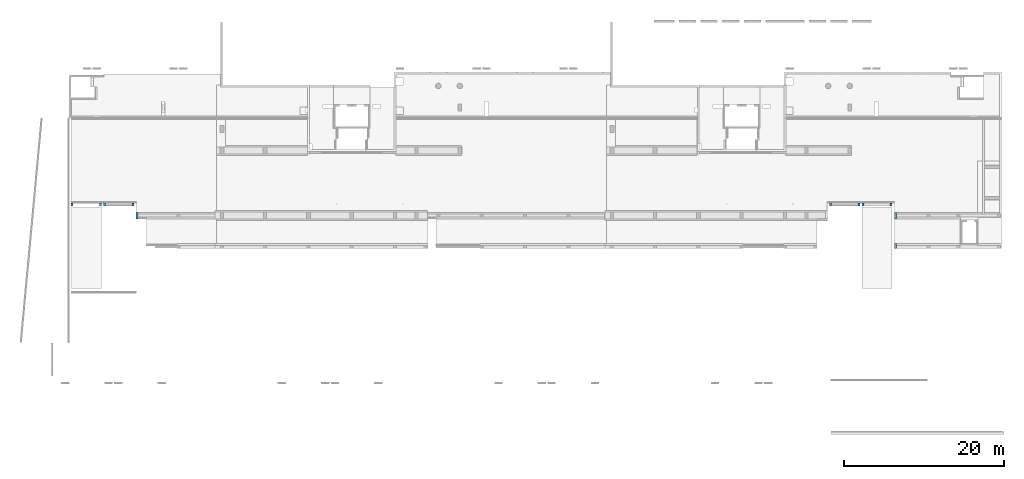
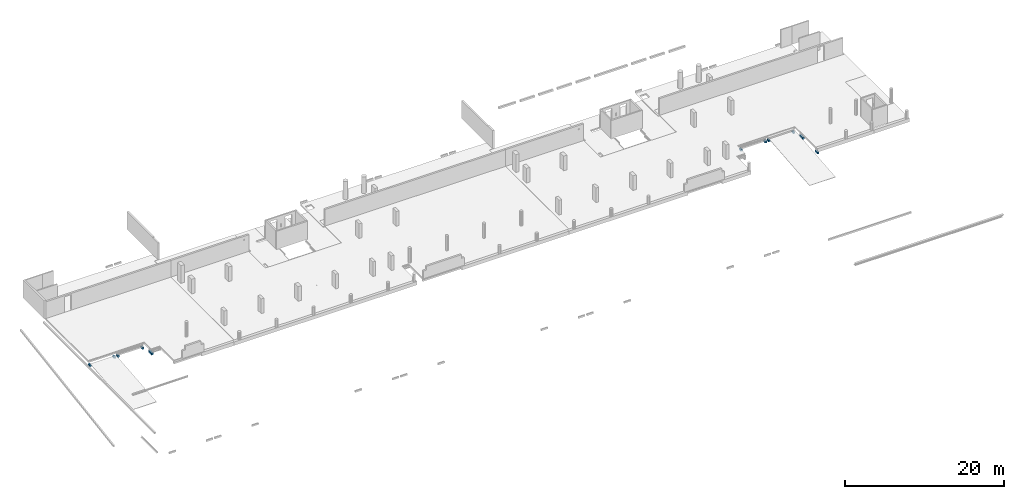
# One storey, part 10 of 10: 11 walls.
"""IFC2X3 building model written with IfcOpenShell, lengths in millimetres."""

import ifcopenshell
import ifcopenshell.guid

model = None  # the IFC model being written
_history = None  # IfcOwnerHistory: only IFC2X3 demands one
_inside = {}  # id of a spatial element -> (the spatial element, [elements in it])
_under = {}  # id of a project, library or spatial element -> (it, [spatial elements below it])
_declared = {}  # id of a project -> (the project, [libraries it declares])
_typed = {}  # id of a type object -> (the type object, [elements of that type])
_made_of = {}  # id of a material, layer set ... -> (it, [elements and type objects made of it])


def new_model(schema):
    """Start an empty IFC model of exactly this schema.

    Asked for "IFC4X3", IfcOpenShell would pick the latest addendum, in which some entities
    have other attributes; the version numbers below select the first issue.
    IFC2X3 requires an IfcOwnerHistory on every rooted entity: one is made here for all.
    """
    global model, _history
    if schema == "IFC4X3":
        model = ifcopenshell.file(schema_version=(4, 3, 0, 0))
    else:
        model = ifcopenshell.file(schema=schema)
    _inside.clear()
    _under.clear()
    _declared.clear()
    _typed.clear()
    _made_of.clear()
    _history = None
    if model.schema == "IFC2X3":
        org = make("IfcOrganization", Name="unknown")
        user = make(
            "IfcPersonAndOrganization",
            ThePerson=make("IfcPerson", FamilyName="unknown"),
            TheOrganization=org,
        )
        app = make(
            "IfcApplication",
            ApplicationDeveloper=org,
            Version="unknown",
            ApplicationFullName="unknown",
            ApplicationIdentifier="unknown",
        )
        _history = make(
            "IfcOwnerHistory",
            OwningUser=user,
            OwningApplication=app,
            ChangeAction="ADDED",
            CreationDate=0,
        )
    return model


def make(cls, **values):
    """One entity of the class cls with the attributes given. An attribute that is None is left unset."""
    return model.create_entity(
        cls, **{name: value for name, value in values.items() if value is not None}
    )


def entity(cls, *values):
    """Any entity or typed value of the class cls, its attributes in the order of the schema. None: left unset."""
    e = model.create_entity(cls)
    for i, value in enumerate(values):
        if value is not None:
            e[i] = value
    return e


def rooted(cls, **values):
    """An entity with a GlobalId (a new one), such as an element, a storey or a relation."""
    return make(cls, GlobalId=ifcopenshell.guid.new(), OwnerHistory=_history, **values)


def si_unit(unit_type, name, prefix=None):
    """IfcSIUnit, for example si_unit("LENGTHUNIT", "METRE", prefix="MILLI")."""
    return make("IfcSIUnit", UnitType=unit_type, Prefix=prefix, Name=name)


def converted_unit(unit_type, name, factor, base, dimensions=None, offset=None):
    """IfcConversionBasedUnit, such as the inch: factor (a typed value) times the base unit."""
    return make(
        "IfcConversionBasedUnit"
        if offset is None
        else "IfcConversionBasedUnitWithOffset",
        ConversionOffset=offset,
        Dimensions=None
        if dimensions is None
        else entity("IfcDimensionalExponents", *dimensions),
        UnitType=unit_type,
        Name=name,
        ConversionFactor=make(
            "IfcMeasureWithUnit", ValueComponent=factor, UnitComponent=base
        ),
    )


def derived_unit(unit_type, elements):
    """IfcDerivedUnit: a product of units, each with its exponent."""
    return make(
        "IfcDerivedUnit",
        Elements=[
            make("IfcDerivedUnitElement", Unit=unit, Exponent=power)
            for unit, power in elements
        ],
        UnitType=unit_type,
    )


def assignment(units):
    """IfcUnitAssignment: the units of a project."""
    return None if units is None else make("IfcUnitAssignment", Units=units)


def point(xyz):
    """IfcCartesianPoint."""
    return None if xyz is None else make("IfcCartesianPoint", Coordinates=xyz)


def direction(xyz):
    """IfcDirection."""
    return None if xyz is None else make("IfcDirection", DirectionRatios=xyz)


def frame(location, z_axis=None, x_axis=None):
    """IfcAxis2Placement3D, a coordinate frame: its origin and axes. An axis left out is left unset."""
    return make(
        "IfcAxis2Placement3D",
        Location=point(location),
        Axis=direction(z_axis),
        RefDirection=direction(x_axis),
    )


def origin():
    """The frame at (0, 0, 0) with its axes left unset."""
    return frame((0.0, 0.0, 0.0))


def place(relative_to, where):
    """IfcLocalPlacement: puts the frame where relative to a parent placement (None: the world)."""
    return make(
        "IfcLocalPlacement", PlacementRelTo=relative_to, RelativePlacement=where
    )


def context(
    kind, dimensions, precision=None, world=None, true_north=None, identifier=None
):
    """IfcGeometricRepresentationContext, for example the 3D "Model" context."""
    return make(
        "IfcGeometricRepresentationContext",
        ContextIdentifier=identifier,
        ContextType=kind,
        CoordinateSpaceDimension=dimensions,
        Precision=precision,
        WorldCoordinateSystem=world,
        TrueNorth=true_north,
    )


def subcontext(parent, identifier, kind, view, scale=None):
    """IfcGeometricRepresentationSubContext, for example "Body" below "Model"."""
    return make(
        "IfcGeometricRepresentationSubContext",
        ContextIdentifier=identifier,
        ContextType=kind,
        ParentContext=parent,
        TargetScale=scale,
        TargetView=view,
    )


def project(units=None, contexts=None):
    """IfcProject with its units and contexts."""
    return rooted(
        "IfcProject",
        Name="project",
        RepresentationContexts=contexts,
        UnitsInContext=assignment(units),
    )


def spatial(cls, under=None, at=None, **own):
    """A site, building, storey or space (cls), placed at a placement, below another one or the project."""
    s = rooted(cls, ObjectPlacement=at, **own)
    if under is not None:
        _under.setdefault(under.id(), (under, []))[1].append(s)
    return s


def faces_of(points, faces, orient=None, outer=None):
    """IfcFace entities. A face is a list of loops; a loop is a list of indices into points, from 0.

    orient and outer hold one flag for each loop. By default every Orientation is true, the
    first loop of a face is its IfcFaceOuterBound and the others are IfcFaceBound.
    """
    made = []
    for i, loops in enumerate(faces):
        bounds = []
        for j, loop in enumerate(loops):
            is_outer = j == 0 if outer is None else outer[i][j]
            bounds.append(
                make(
                    "IfcFaceOuterBound" if is_outer else "IfcFaceBound",
                    Bound=make("IfcPolyLoop", Polygon=[points[k] for k in loop]),
                    Orientation=True if orient is None else orient[i][j],
                )
            )
        made.append(make("IfcFace", Bounds=bounds))
    return made


def faceted_brep(points, faces, orient=None, outer=None, voids=None):
    """IfcFacetedBrep: a solid bounded by flat faces; with voids (closed shells), ...WithVoids."""
    shared = [point(p) for p in points]
    hull = make("IfcClosedShell", CfsFaces=faces_of(shared, faces, orient, outer))
    if voids is None:
        return make("IfcFacetedBrep", Outer=hull)
    return make(
        "IfcFacetedBrepWithVoids",
        Outer=hull,
        Voids=[
            make(cls, CfsFaces=faces_of(shared, fs, o, b)) for cls, fs, o, b in voids
        ],
    )


def shape(context_of_items, identifier, shape_type, items):
    """IfcShapeRepresentation: the items that make up one representation, for example the "Body"."""
    return make(
        "IfcShapeRepresentation",
        ContextOfItems=context_of_items,
        RepresentationIdentifier=identifier,
        RepresentationType=shape_type,
        Items=items,
    )


def material(Name=None, Category=None):
    """IfcMaterial."""
    return make("IfcMaterial", Name=Name, Category=Category)


def made_of(thing, what):
    """Note that an element or type object is made of a material, layer set ...; save() writes the relation."""
    if what is not None:
        _made_of.setdefault(what.id(), (what, []))[1].append(thing)
    return thing


def type_object(cls, material=None, **own):
    """A type object (cls), such as IfcWallType, which elements share."""
    return made_of(rooted(cls, **own), material)


def element(
    cls,
    number,
    at=None,
    inside=None,
    cuts=None,
    type_object=None,
    material=None,
    context=None,
    identifier="Body",
    shape_type=None,
    held_by="IfcProductDefinitionShape",
    body=None,
    shapes=None,
    **own,
):
    """One element of the class cls, such as IfcWall. Its Tag is "e" and its number.

    at: its placement. inside: the storey or other place that contains it. cuts: it is an
    opening in that element (IfcRelVoidsElement). A single representation is given by context,
    identifier, shape_type and body (its items); several are given by shapes. held_by: the class
    of the entity that holds the representations. save() writes the other relations.
    """
    e = rooted(cls, Tag="e%d" % number, ObjectPlacement=at, **own)
    if body is not None:
        shapes = [shape(context, identifier, shape_type, body)]
    if shapes is not None:
        e.Representation = make(held_by, Representations=shapes)
    if inside is not None:
        _inside.setdefault(inside.id(), (inside, []))[1].append(e)
    if cuts is not None:
        rooted(
            "IfcRelVoidsElement", RelatingBuildingElement=cuts, RelatedOpeningElement=e
        )
    if type_object is not None:
        _typed.setdefault(type_object.id(), (type_object, []))[1].append(e)
    return made_of(e, material)


def aggregate(whole, parts):
    """IfcRelAggregates: a whole, such as a stair, and the parts it consists of."""
    return rooted("IfcRelAggregates", RelatingObject=whole, RelatedObjects=parts)


def save(model, path):
    """Write the relations noted so far, then the file.

    IfcRelAggregates (storeys below a building ...), IfcRelContainedInSpatialStructure (elements
    in a storey), IfcRelDefinesByType, IfcRelAssociatesMaterial and IfcRelDeclares: one each for
    every whole, place, type object, material and project.
    """
    for whole, parts in _under.values():
        aggregate(whole, parts)
    for where, things in _inside.values():
        rooted(
            "IfcRelContainedInSpatialStructure",
            RelatedElements=things,
            RelatingStructure=where,
        )
    for kind, things in _typed.values():
        rooted("IfcRelDefinesByType", RelatedObjects=things, RelatingType=kind)
    for what, things in _made_of.values():
        rooted("IfcRelAssociatesMaterial", RelatedObjects=things, RelatingMaterial=what)
    for by, libraries in _declared.values():
        rooted("IfcRelDeclares", RelatingContext=by, RelatedDefinitions=libraries)
    model.write(path)


model = new_model("IFC2X3")

# Units and contexts
model_context = context("Model", 3, precision=0.01, world=origin(), true_north=direction((6.12303176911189e-17, 1.0)))
body_context = subcontext(model_context, "Body", "Model", "MODEL_VIEW")
ifc_project = project(units=[si_unit("LENGTHUNIT", "METRE", prefix="MILLI"), si_unit("AREAUNIT", "SQUARE_METRE"), si_unit("VOLUMEUNIT", "CUBIC_METRE"), converted_unit("PLANEANGLEUNIT", "DEGREE", entity("IfcRatioMeasure", 0.0174532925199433), si_unit("PLANEANGLEUNIT", "RADIAN"), dimensions=[0, 0, 0, 0, 0, 0, 0]), si_unit("MASSUNIT", "GRAM", prefix="KILO"), derived_unit("MASSDENSITYUNIT", [(si_unit("MASSUNIT", "GRAM", prefix="KILO"), 1), (si_unit("LENGTHUNIT", "METRE"), -3)]), si_unit("TIMEUNIT", "SECOND"), si_unit("FREQUENCYUNIT", "HERTZ"), si_unit("THERMODYNAMICTEMPERATUREUNIT", "DEGREE_CELSIUS"), derived_unit("THERMALTRANSMITTANCEUNIT", [(si_unit("MASSUNIT", "GRAM", prefix="KILO"), 1), (si_unit("THERMODYNAMICTEMPERATUREUNIT", "KELVIN"), -1), (si_unit("TIMEUNIT", "SECOND"), -3)]), derived_unit("VOLUMETRICFLOWRATEUNIT", [(si_unit("LENGTHUNIT", "METRE"), 3), (si_unit("TIMEUNIT", "SECOND"), -1)]), si_unit("ELECTRICCURRENTUNIT", "AMPERE"), si_unit("ELECTRICVOLTAGEUNIT", "VOLT"), si_unit("POWERUNIT", "WATT"), si_unit("FORCEUNIT", "NEWTON", prefix="KILO"), si_unit("ILLUMINANCEUNIT", "LUX"), si_unit("LUMINOUSFLUXUNIT", "LUMEN"), si_unit("LUMINOUSINTENSITYUNIT", "CANDELA"), derived_unit("USERDEFINED", [(si_unit("MASSUNIT", "GRAM", prefix="KILO"), -1), (si_unit("LENGTHUNIT", "METRE"), -2), (si_unit("TIMEUNIT", "SECOND"), 3), (si_unit("LUMINOUSFLUXUNIT", "LUMEN"), 1)]), derived_unit("LINEARVELOCITYUNIT", [(si_unit("LENGTHUNIT", "METRE"), 1), (si_unit("TIMEUNIT", "SECOND"), -1)]), si_unit("PRESSUREUNIT", "PASCAL"), derived_unit("USERDEFINED", [(si_unit("LENGTHUNIT", "METRE"), -2), (si_unit("MASSUNIT", "GRAM", prefix="KILO"), 1), (si_unit("TIMEUNIT", "SECOND"), -2)])], contexts=[model_context])

# Site, building, storey
site_placement = place(None, origin())
site = spatial("IfcSite", under=ifc_project, at=site_placement, Name="Default", CompositionType="ELEMENT")
building_placement = place(site_placement, origin())
building = spatial("IfcBuilding", under=site, at=building_placement, Name="niet gebruiken", CompositionType="ELEMENT")
storey_placement = place(building_placement, frame((0.0, 0.0, 6610.0)))
storey = spatial("IfcBuildingStorey", under=building, at=storey_placement, Name="01c derde tussenverdieping", CompositionType="ELEMENT", Elevation=6610.0)

# Walls
ifc_material = material(Name="NLRS_f2_beton prefab")
wall_type_1 = type_object("IfcWallType", Name="NLRS_21.21_SF_WPB_oplegnok prefabbeton_gen:250x310", PredefinedType="NOTDEFINED", material=ifc_material)
wall_1_placement = place(storey_placement, frame((110825.0, 28481.0, -850.0), z_axis=(0.0, 0.0, 1.0), x_axis=(0.0, 1.0, 0.0)))
element("IfcWall", 1, at=wall_1_placement, inside=storey, type_object=wall_type_1, material=ifc_material, Name="NLRS_21.21_SF_WPB_oplegnok prefabbeton_gen:250x310", ObjectType="NLRS_21.21_SF_WPB_oplegnok prefabbeton_gen:250x310", context=body_context, shape_type="Brep", body=[
    faceted_brep([(0.0, 0.0, 310.0), (0.0, 0.0, 0.0), (0.0, -250.0, 39.9987607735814), (0.0, -250.0, 310.0), (800.0, 0.0, 310.0), (800.0, -250.0, 310.0), (800.0, -250.0, 39.9987607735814), (800.0, 0.0, 0.0)], [[[0, 1, 2, 3]], [[4, 5, 6, 7]], [[1, 0, 4, 7]], [[3, 2, 6, 5]], [[0, 3, 5, 4]], [[2, 1, 7, 6]]]),
])
wall_2_placement = place(storey_placement, frame((110825.0, 24776.0, -850.0), z_axis=(0.0, 0.0, 1.0), x_axis=(0.0, 1.0, 0.0)))
element("IfcWall", 2, at=wall_2_placement, inside=storey, type_object=wall_type_1, material=ifc_material, Name="NLRS_21.21_SF_WPB_oplegnok prefabbeton_gen:250x310", ObjectType="NLRS_21.21_SF_WPB_oplegnok prefabbeton_gen:250x310", context=body_context, shape_type="Brep", body=[
    faceted_brep([(0.0, 0.0, 310.0), (0.0, 0.0, 0.0), (0.0, -250.0, 39.9987607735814), (0.0, -250.0, 310.0), (600.0, 0.0, 310.0), (600.0, -250.0, 310.0), (600.0, -250.0, 39.9987607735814), (600.0, 0.0, 0.0)], [[[0, 1, 2, 3]], [[4, 5, 6, 7]], [[1, 0, 4, 7]], [[3, 2, 6, 5]], [[0, 3, 5, 4]], [[2, 1, 7, 6]]]),
])
wall_3_placement = place(storey_placement, frame((16325.0, 28481.0, -850.0), z_axis=(0.0, 0.0, 1.0), x_axis=(0.0, 1.0, 0.0)))
element("IfcWall", 3, at=wall_3_placement, inside=storey, type_object=wall_type_1, material=ifc_material, Name="NLRS_21.21_SF_WPB_oplegnok prefabbeton_gen:250x310", ObjectType="NLRS_21.21_SF_WPB_oplegnok prefabbeton_gen:250x310", context=body_context, shape_type="Brep", body=[
    faceted_brep([(0.0, 0.0, 310.0), (0.0, 0.0, 0.0), (0.0, -250.0, 39.9987607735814), (0.0, -250.0, 310.0), (800.0, 0.0, 310.0), (800.0, -250.0, 310.0), (800.0, -250.0, 39.9987607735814), (800.0, 0.0, 0.0)], [[[0, 1, 2, 3]], [[4, 5, 6, 7]], [[1, 0, 4, 7]], [[3, 2, 6, 5]], [[0, 3, 5, 4]], [[2, 1, 7, 6]]]),
])
wall_type_2 = type_object("IfcWallType", Name="NLRS_21.21_SF_WPB_oplegnok prefabbeton_gen:250x270 met afschuining 9gr", PredefinedType="NOTDEFINED", material=ifc_material)
wall_4_placement = place(storey_placement, frame((12275.0, 30046.0, -770.0), z_axis=(0.0, 0.0, 1.0), x_axis=(0.0, 1.0, 0.0)))
element("IfcWall", 4, at=wall_4_placement, inside=storey, type_object=wall_type_2, material=ifc_material, Name="NLRS_21.21_SF_WPB_oplegnok prefabbeton_gen:250x270 met afschuining 9gr", ObjectType="NLRS_21.21_SF_WPB_oplegnok prefabbeton_gen:250x270 met afschuining 9gr", context=body_context, shape_type="Brep", body=[
    faceted_brep([(0.0, 0.0, 310.0), (0.0, 0.0, 0.0), (0.0, -250.0, 39.5961100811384), (0.0, -250.0, 310.0), (380.0, 0.0, 310.0), (380.0, -250.0, 310.0), (380.0, -250.0, 39.5961100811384), (380.0, 0.0, 0.0)], [[[0, 1, 2, 3]], [[4, 5, 6, 7]], [[1, 0, 4, 7]], [[3, 2, 6, 5]], [[0, 3, 5, 4]], [[2, 1, 7, 6]]]),
])
wall_5_placement = place(storey_placement, frame((15825.0, 30046.0, -770.0), z_axis=(0.0, 0.0, 1.0), x_axis=(0.0, 1.0, 0.0)))
element("IfcWall", 5, at=wall_5_placement, inside=storey, type_object=wall_type_2, material=ifc_material, Name="NLRS_21.21_SF_WPB_oplegnok prefabbeton_gen:250x270 met afschuining 9gr", ObjectType="NLRS_21.21_SF_WPB_oplegnok prefabbeton_gen:250x270 met afschuining 9gr", context=body_context, shape_type="Brep", body=[
    faceted_brep([(0.0, -250.0, 310.0), (0.0, 0.0, 310.0), (0.0, 0.0, 39.5961100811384), (0.0, -250.0, 0.0), (380.0, -250.0, 310.0), (380.0, -250.0, 0.0), (380.0, 0.0, 39.5961100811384), (380.0, 0.0, 310.0)], [[[0, 1, 2, 3]], [[4, 5, 6, 7]], [[3, 5, 4, 0]], [[1, 7, 6, 2]], [[0, 4, 7, 1]], [[2, 6, 5, 3]]]),
])
wall_6_placement = place(storey_placement, frame((8225.0, 30046.0, -770.0), z_axis=(0.0, 0.0, 1.0), x_axis=(0.0, 1.0, 0.0)))
element("IfcWall", 6, at=wall_6_placement, inside=storey, type_object=wall_type_2, material=ifc_material, Name="NLRS_21.21_SF_WPB_oplegnok prefabbeton_gen:250x270 met afschuining 9gr", ObjectType="NLRS_21.21_SF_WPB_oplegnok prefabbeton_gen:250x270 met afschuining 9gr", context=body_context, shape_type="Brep", body=[
    faceted_brep([(0.0, 0.0, 310.0), (0.0, 0.0, 0.0), (0.0, -250.0, 39.5961100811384), (0.0, -250.0, 310.0), (380.0, 0.0, 310.0), (380.0, -250.0, 310.0), (380.0, -250.0, 39.5961100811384), (380.0, 0.0, 0.0)], [[[0, 1, 2, 3]], [[4, 5, 6, 7]], [[1, 0, 4, 7]], [[3, 2, 6, 5]], [[0, 3, 5, 4]], [[2, 1, 7, 6]]]),
])
wall_7_placement = place(storey_placement, frame((11775.0, 30046.0, -770.0), z_axis=(0.0, 0.0, 1.0), x_axis=(0.0, 1.0, 0.0)))
element("IfcWall", 7, at=wall_7_placement, inside=storey, type_object=wall_type_2, material=ifc_material, Name="NLRS_21.21_SF_WPB_oplegnok prefabbeton_gen:250x270 met afschuining 9gr", ObjectType="NLRS_21.21_SF_WPB_oplegnok prefabbeton_gen:250x270 met afschuining 9gr", context=body_context, shape_type="Brep", body=[
    faceted_brep([(0.0, -250.0, 310.0), (0.0, 0.0, 310.0), (0.0, 0.0, 39.5961100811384), (0.0, -250.0, 0.0), (380.0, -250.0, 310.0), (380.0, -250.0, 0.0), (380.0, 0.0, 39.5961100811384), (380.0, 0.0, 310.0)], [[[0, 1, 2, 3]], [[4, 5, 6, 7]], [[3, 5, 4, 0]], [[1, 7, 6, 2]], [[0, 4, 7, 1]], [[2, 6, 5, 3]]]),
])
wall_type_3 = type_object("IfcWallType", Name="NLRS_21.21_SF_WPB_oplegnok prefabbeton_gen:250x270 met afschuining -9gr", PredefinedType="NOTDEFINED", material=ifc_material)
wall_8_placement = place(storey_placement, frame((106275.0, 30046.0, -769.596110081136), z_axis=(0.0, 0.0, 1.0), x_axis=(0.0, 1.0, 0.0)))
element("IfcWall", 8, at=wall_8_placement, inside=storey, type_object=wall_type_3, material=ifc_material, Name="NLRS_21.21_SF_WPB_oplegnok prefabbeton_gen:250x270 met afschuining -9gr", ObjectType="NLRS_21.21_SF_WPB_oplegnok prefabbeton_gen:250x270 met afschuining -9gr", context=body_context, shape_type="Brep", body=[
    faceted_brep([(0.0, 0.0, 309.596110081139), (0.0, 0.0, 39.596110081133), (0.0, -250.0, 0.0), (0.0, -250.0, 309.596110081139), (380.0, 0.0, 309.596110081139), (380.0, -250.0, 309.596110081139), (380.0, -250.0, 0.0), (380.0, 0.0, 39.596110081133)], [[[0, 1, 2, 3]], [[4, 5, 6, 7]], [[1, 0, 4, 7]], [[3, 2, 6, 5]], [[0, 3, 5, 4]], [[2, 1, 7, 6]]]),
])
wall_9_placement = place(storey_placement, frame((102725.0, 30046.0, -769.596110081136), z_axis=(0.0, 0.0, 1.0), x_axis=(0.0, 1.0, 0.0)))
element("IfcWall", 9, at=wall_9_placement, inside=storey, type_object=wall_type_3, material=ifc_material, Name="NLRS_21.21_SF_WPB_oplegnok prefabbeton_gen:250x270 met afschuining -9gr", ObjectType="NLRS_21.21_SF_WPB_oplegnok prefabbeton_gen:250x270 met afschuining -9gr", context=body_context, shape_type="Brep", body=[
    faceted_brep([(0.0, -250.0, 309.596110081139), (0.0, 0.0, 309.596110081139), (0.0, 0.0, 0.0), (0.0, -250.0, 39.596110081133), (380.0, -250.0, 309.596110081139), (380.0, -250.0, 39.596110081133), (380.0, 0.0, 0.0), (380.0, 0.0, 309.596110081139)], [[[0, 1, 2, 3]], [[4, 5, 6, 7]], [[3, 5, 4, 0]], [[1, 7, 6, 2]], [[0, 4, 7, 1]], [[2, 6, 5, 3]]]),
])
wall_10_placement = place(storey_placement, frame((110325.0, 30046.0, -769.596110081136), z_axis=(0.0, 0.0, 1.0), x_axis=(0.0, 1.0, 0.0)))
element("IfcWall", 10, at=wall_10_placement, inside=storey, type_object=wall_type_3, material=ifc_material, Name="NLRS_21.21_SF_WPB_oplegnok prefabbeton_gen:250x270 met afschuining -9gr", ObjectType="NLRS_21.21_SF_WPB_oplegnok prefabbeton_gen:250x270 met afschuining -9gr", context=body_context, shape_type="Brep", body=[
    faceted_brep([(0.0, 0.0, 309.596110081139), (0.0, 0.0, 39.596110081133), (0.0, -250.0, 0.0), (0.0, -250.0, 309.596110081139), (380.0, 0.0, 309.596110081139), (380.0, -250.0, 309.596110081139), (380.0, -250.0, 0.0), (380.0, 0.0, 39.596110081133)], [[[0, 1, 2, 3]], [[4, 5, 6, 7]], [[1, 0, 4, 7]], [[3, 2, 6, 5]], [[0, 3, 5, 4]], [[2, 1, 7, 6]]]),
])
wall_11_placement = place(storey_placement, frame((106775.0, 30046.0, -769.596110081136), z_axis=(0.0, 0.0, 1.0), x_axis=(0.0, 1.0, 0.0)))
element("IfcWall", 11, at=wall_11_placement, inside=storey, type_object=wall_type_3, material=ifc_material, Name="NLRS_21.21_SF_WPB_oplegnok prefabbeton_gen:250x270 met afschuining -9gr", ObjectType="NLRS_21.21_SF_WPB_oplegnok prefabbeton_gen:250x270 met afschuining -9gr", context=body_context, shape_type="Brep", body=[
    faceted_brep([(0.0, -250.0, 309.596110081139), (0.0, 0.0, 309.596110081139), (0.0, 0.0, 0.0), (0.0, -250.0, 39.596110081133), (380.0, -250.0, 309.596110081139), (380.0, -250.0, 39.596110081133), (380.0, 0.0, 0.0), (380.0, 0.0, 309.596110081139)], [[[0, 1, 2, 3]], [[4, 5, 6, 7]], [[3, 5, 4, 0]], [[1, 7, 6, 2]], [[0, 4, 7, 1]], [[2, 6, 5, 3]]]),
])

save(model, "model.ifc")
